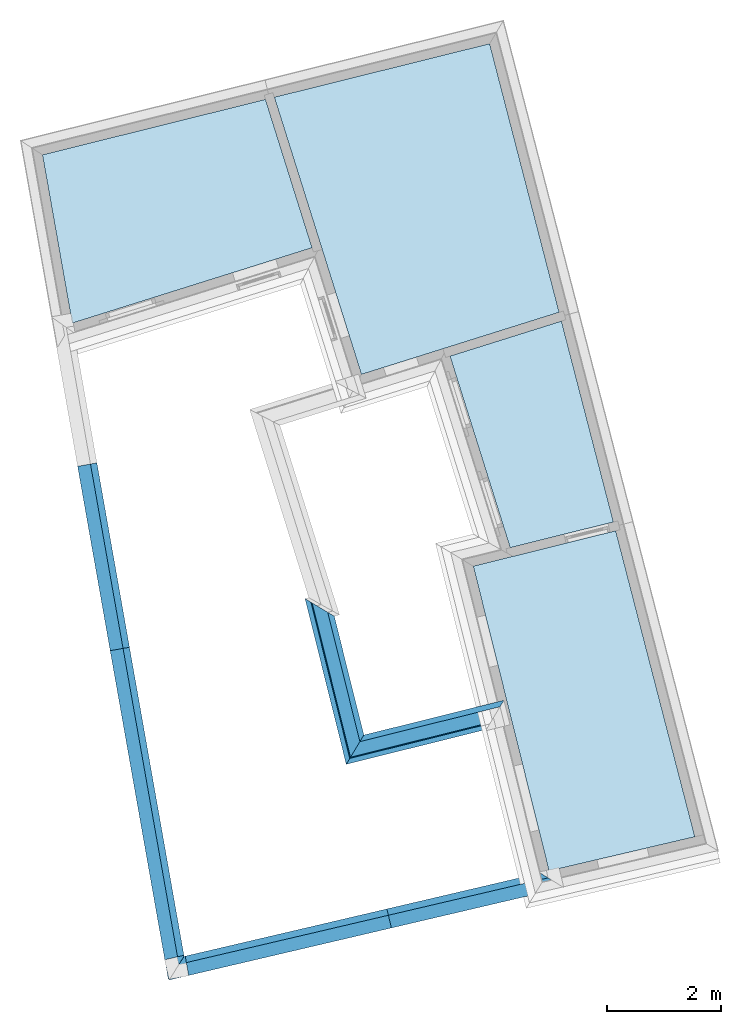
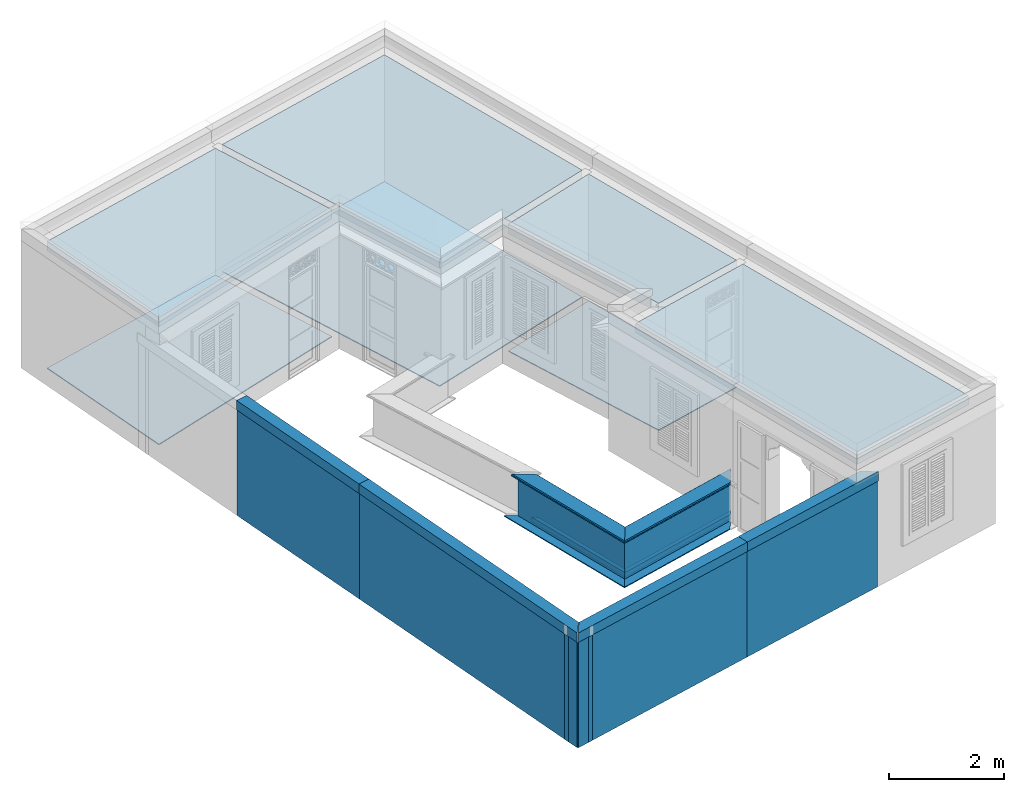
# One storey, part 1 of 13: 16 walls, 7 slabs.
"""IFC4 building model written with IfcOpenShell, lengths in metres."""

from ifc_helpers import new_model, si_unit, frame, origin_with_axes, place, context, subcontext, project, spatial, polyline, outline, extrude, clip, halfspace, material_profile, profile_set, profile_usage, type_object, element, save


model = new_model("IFC4")

# Units and contexts
model_context = context("Model", 3, world=origin_with_axes())
body_context = subcontext(model_context, "Body", "Model", "MODEL_VIEW")
ifc_project = project(units=[si_unit("PLANEANGLEUNIT", "RADIAN"), si_unit("MASSUNIT", "GRAM", prefix="KILO"), si_unit("FORCEUNIT", "NEWTON", prefix="KILO"), si_unit("LENGTHUNIT", "METRE"), si_unit("AREAUNIT", "SQUARE_METRE"), si_unit("VOLUMEUNIT", "CUBIC_METRE")], contexts=[model_context, model_context])

# Site, building, storey
site_placement = place(None, origin_with_axes())
site = spatial("IfcSite", under=ifc_project, at=site_placement, Name="Site plot-0", CompositionType="ELEMENT")
building_placement = place(None, origin_with_axes())
building = spatial("IfcBuilding", under=site, at=building_placement, Name="Building plot-0", CompositionType="ELEMENT")
storey_placement = place(None, frame((0.0, 0.0, 3.6), z_axis=(0.0, 0.0, 1.0), x_axis=(1.0, 0.0, 0.0)))
storey = spatial("IfcBuildingStorey", under=building, at=storey_placement, Name="plot-0 1", CompositionType="ELEMENT", Elevation=3.6)

# Slabs
slab_1_placement = place(storey_placement, frame((8.4025652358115, 10.3345106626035, 2.5)))
element("IfcSlab", 1, at=slab_1_placement, inside=storey, Name="My Slab", ObjectType="Slab", PredefinedType="FLOOR", context=body_context, shape_type="SweptSolid", body=[
    extrude(outline(polyline([(0.0, 0.0), (-1.96382218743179, -0.616969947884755), (-0.903554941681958, -3.99181235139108), (0.915950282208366, -3.5395687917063), (0.0, 0.0)])), origin_with_axes(), (0.0, 0.0, 1.0), 0.2),
])
slab_2_placement = place(storey_placement, frame((8.4025652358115, 10.3345106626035, 0.0)))
element("IfcSlab", 2, at=slab_2_placement, inside=storey, Name="My Slab", ObjectType="Slab", PredefinedType="FLOOR", context=body_context, shape_type="SweptSolid", body=[
    extrude(outline(polyline([(0.0, 0.0), (-1.96382218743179, -0.616969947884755), (-0.903554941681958, -3.99181235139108), (0.915950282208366, -3.5395687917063), (0.0, 0.0)])), origin_with_axes(), (0.0, 0.0, 1.0), 0.02),
])
slab_3_placement = place(storey_placement, frame((9.35860095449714, 6.64003700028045, 2.5)))
element("IfcSlab", 3, at=slab_3_placement, inside=storey, Name="My Slab", ObjectType="Slab", PredefinedType="FLOOR", context=body_context, shape_type="SweptSolid", body=[
    extrude(outline(polyline([(0.0, 0.0), (-2.5093045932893, -0.623695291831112), (-1.17466303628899, -5.99334010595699), (1.39517420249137, -5.39146628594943), (0.0, 0.0)])), origin_with_axes(), (0.0, 0.0, 1.0), 0.2),
])
slab_4_placement = place(storey_placement, frame((7.13769499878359, 15.2224344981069, 2.5)))
element("IfcSlab", 4, at=slab_4_placement, inside=storey, Name="My Slab", ObjectType="Slab", PredefinedType="FLOOR", context=body_context, shape_type="SweptSolid", body=[
    extrude(outline(polyline([(0.0, 0.0), (-3.79412183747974, -0.943040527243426), (-2.25958614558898, -5.8274846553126), (1.22473408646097, -4.73282298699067), (0.0, 0.0)])), origin_with_axes(), (0.0, 0.0, 1.0), 0.2),
])
slab_5_placement = place(storey_placement, frame((7.13769499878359, 15.2224344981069, 0.0)))
element("IfcSlab", 5, at=slab_5_placement, inside=storey, Name="My Slab", ObjectType="Slab", PredefinedType="FLOOR", context=body_context, shape_type="SweptSolid", body=[
    extrude(outline(polyline([(0.0, 0.0), (-3.79412183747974, -0.943040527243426), (-2.25958614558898, -5.8274846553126), (1.22473408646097, -4.73282298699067), (0.0, 0.0)])), origin_with_axes(), (0.0, 0.0, 1.0), 0.02),
])
slab_6_placement = place(storey_placement, frame((-0.217380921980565, 10.2984793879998, 2.5)))
element("IfcSlab", 6, at=slab_6_placement, inside=storey, Name="My Slab", ObjectType="Slab", PredefinedType="FLOOR", context=body_context, shape_type="SweptSolid", body=[
    extrude(outline(polyline([(0.0, 0.0), (4.22673445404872, 1.3279044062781), (3.4053912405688, 3.94224896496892), (-0.524045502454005, 2.96557550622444), (0.0, 0.0)])), origin_with_axes(), (0.0, 0.0, 1.0), 0.2),
])
slab_7_placement = place(storey_placement, frame((-0.217380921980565, 10.2984793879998, 0.0)))
element("IfcSlab", 7, at=slab_7_placement, inside=storey, Name="My Slab", ObjectType="Slab", PredefinedType="FLOOR", context=body_context, shape_type="SweptSolid", body=[
    extrude(outline(polyline([(0.0, 0.0), (4.22673445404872, 1.3279044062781), (3.4053912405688, 3.94224896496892), (-0.524045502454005, 2.96557550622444), (0.0, 0.0)])), origin_with_axes(), (0.0, 0.0, 1.0), 0.02),
])

# Walls
ifc_material_profile_1 = material_profile(None, outline(polyline([(0.25, 0.0), (0.25, 2.245), (0.05, 2.245), (0.05, 0.02), (-0.08, 0.02), (-0.08, 0.0), (0.25, 0.0)])))
ifc_profile_set_1 = profile_set([ifc_material_profile_1])
ifc_profile_usage_1 = profile_usage(ifc_profile_set_1)
wall_type_1 = type_object("IfcWallType", Name="parapet street_0", PredefinedType="PARAPET", material=ifc_profile_set_1)
wall_1_placement = place(storey_placement, frame((1.91825049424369, -1.92999598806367, 0.0), z_axis=(-0.228036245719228, 0.973652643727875, 0.0), x_axis=(-0.973652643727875, -0.228036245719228, 0.0)))
element("IfcWall", 8, at=wall_1_placement, inside=storey, type_object=wall_type_1, material=ifc_profile_usage_1, Name="parapet street_0", context=body_context, shape_type="Clipping", body=[
    clip(clip(extrude(outline(polyline([(0.25, 0.0), (0.25, 2.245), (0.05, 2.245), (0.05, 0.02), (-0.08, 0.02), (-0.08, 0.0), (0.25, 0.0)])), origin_with_axes(), (0.0, 0.0, 1.0), 2.1), halfspace(frame((0.0, 0.0, 1.1), z_axis=(-6.12323399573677e-17, 0.0, -1.0), x_axis=(0.0, 1.0, 0.0)), True)), halfspace(frame((0.0, 0.0, 1.0), z_axis=(-0.707106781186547, 0.0, -0.707106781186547), x_axis=(0.0, 1.0, 0.0)), False)),
])
ifc_profile_usage_2 = profile_usage(ifc_profile_set_1)
wall_2_placement = place(storey_placement, frame((6.31970204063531, 0.127915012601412, 0.0), z_axis=(-0.973652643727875, -0.228036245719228, 0.0), x_axis=(0.228036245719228, -0.973652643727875, 0.0)))
element("IfcWall", 9, at=wall_2_placement, inside=storey, type_object=wall_type_1, material=ifc_profile_usage_2, Name="parapet street_0", context=body_context, shape_type="Clipping", body=[
    clip(clip(extrude(outline(polyline([(0.25, 0.0), (0.25, 2.245), (0.05, 2.245), (0.05, 0.02), (-0.08, 0.02), (-0.08, 0.0), (0.25, 0.0)])), origin_with_axes(), (0.0, 0.0, 1.0), 5.75476323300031), halfspace(frame((0.0, 0.0, 4.75476323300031), z_axis=(0.707106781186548, 0.0, -0.707106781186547), x_axis=(0.0, 1.0, 0.0)), True)), halfspace(frame((0.0, 0.0, 1.0), z_axis=(-6.12323399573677e-17, 0.0, -1.0), x_axis=(0.0, 1.0, 0.0)), False)),
])
ifc_profile_usage_3 = profile_usage(ifc_profile_set_1)
wall_3_placement = place(storey_placement, frame((9.09899006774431, 0.778843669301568, 0.0), z_axis=(-0.973652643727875, -0.228036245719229, 0.0), x_axis=(0.228036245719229, -0.973652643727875, 0.0)))
element("IfcWall", 10, at=wall_3_placement, inside=storey, type_object=wall_type_1, material=ifc_profile_usage_3, Name="parapet street_0", context=body_context, shape_type="Clipping", body=[
    clip(clip(extrude(outline(polyline([(0.25, 0.0), (0.25, 2.245), (0.05, 2.245), (0.05, 0.02), (-0.08, 0.02), (-0.08, 0.0), (0.25, 0.0)])), origin_with_axes(), (0.0, 0.0, 1.0), 4.85449646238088), halfspace(frame((0.0, 0.0, 3.85449646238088), z_axis=(1.60812264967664e-16, 0.0, -1.0), x_axis=(0.0, 1.0, 0.0)), True)), halfspace(frame((0.0, 0.0, 1.0), z_axis=(-0.707106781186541, 0.0, -0.707106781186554), x_axis=(0.0, 1.0, 0.0)), False)),
])
ifc_material_profile_2 = material_profile(None, outline(polyline([(0.265, 2.245), (0.265, 2.445), (0.035, 2.445), (0.035, 2.245), (0.265, 2.245)])))
ifc_profile_set_2 = profile_set([ifc_material_profile_2])
ifc_profile_usage_4 = profile_usage(ifc_profile_set_2)
wall_type_2 = type_object("IfcWallType", Name="parapet street_1", PredefinedType="PARAPET", material=ifc_profile_set_2)
wall_4_placement = place(storey_placement, frame((6.31970204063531, 0.127915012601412, 0.0), z_axis=(-0.973652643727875, -0.228036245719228, 0.0), x_axis=(0.228036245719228, -0.973652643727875, 0.0)))
element("IfcWall", 11, at=wall_4_placement, inside=storey, type_object=wall_type_2, material=ifc_profile_usage_4, Name="parapet street_1", context=body_context, shape_type="Clipping", body=[
    clip(clip(extrude(outline(polyline([(0.265, 2.245), (0.265, 2.445), (0.035, 2.445), (0.035, 2.245), (0.265, 2.245)])), origin_with_axes(), (0.0, 0.0, 1.0), 5.75476323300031), halfspace(frame((0.0, 0.0, 4.75476323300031), z_axis=(0.707106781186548, 0.0, -0.707106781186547), x_axis=(0.0, 1.0, 0.0)), True)), halfspace(frame((0.0, 0.0, 1.0), z_axis=(-6.12323399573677e-17, 0.0, -1.0), x_axis=(0.0, 1.0, 0.0)), False)),
])
ifc_profile_usage_5 = profile_usage(ifc_profile_set_2)
wall_5_placement = place(storey_placement, frame((9.09899006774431, 0.778843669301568, 0.0), z_axis=(-0.973652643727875, -0.228036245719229, 0.0), x_axis=(0.228036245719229, -0.973652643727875, 0.0)))
element("IfcWall", 12, at=wall_5_placement, inside=storey, type_object=wall_type_2, material=ifc_profile_usage_5, Name="parapet street_1", context=body_context, shape_type="Clipping", body=[
    clip(clip(extrude(outline(polyline([(0.265, 2.245), (0.265, 2.445), (0.035, 2.445), (0.035, 2.245), (0.265, 2.245)])), origin_with_axes(), (0.0, 0.0, 1.0), 4.85449646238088), halfspace(frame((0.0, 0.0, 3.85449646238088), z_axis=(1.60812264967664e-16, 0.0, -1.0), x_axis=(0.0, 1.0, 0.0)), True)), halfspace(frame((0.0, 0.0, 1.0), z_axis=(-0.707106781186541, 0.0, -0.707106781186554), x_axis=(0.0, 1.0, 0.0)), False)),
])
ifc_material_profile_3 = material_profile(None, outline(polyline([(0.25, 0.0), (0.25, 2.245), (0.05, 2.245), (0.05, 0.02), (-0.08, 0.02), (-0.08, 0.0), (0.25, 0.0)])))
ifc_profile_set_3 = profile_set([ifc_material_profile_3])
ifc_profile_usage_6 = profile_usage(ifc_profile_set_3)
wall_type_3 = type_object("IfcWallType", Name="parapet party_0", PredefinedType="PARAPET", material=ifc_profile_set_3)
wall_6_placement = place(storey_placement, frame((0.887036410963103, 3.58884311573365, 0.0), z_axis=(-0.174013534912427, 0.984743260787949, 0.0), x_axis=(-0.984743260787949, -0.174013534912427, 0.0)))
element("IfcWall", 13, at=wall_6_placement, inside=storey, type_object=wall_type_3, material=ifc_profile_usage_6, Name="parapet party_0", context=body_context, shape_type="Clipping", body=[
    clip(clip(extrude(outline(polyline([(0.25, 0.0), (0.25, 2.245), (0.05, 2.245), (0.05, 0.02), (-0.08, 0.02), (-0.08, 0.0), (0.25, 0.0)])), origin_with_axes(), (0.0, 0.0, 1.0), 5.2989511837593), halfspace(frame((0.0, 0.0, 4.2989511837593), z_axis=(-1.83758917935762e-15, 0.0, -1.0), x_axis=(0.0, 1.0, 0.0)), True)), halfspace(frame((0.0, 0.0, 1.0), z_axis=(-6.12323399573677e-17, 0.0, -1.0), x_axis=(0.0, 1.0, 0.0)), False)),
])
ifc_profile_usage_7 = profile_usage(ifc_profile_set_3)
wall_7_placement = place(storey_placement, frame((1.86422778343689, -1.94108660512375, 0.0), z_axis=(-0.174013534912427, 0.984743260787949, 0.0), x_axis=(-0.984743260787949, -0.174013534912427, 0.0)))
element("IfcWall", 14, at=wall_7_placement, inside=storey, type_object=wall_type_3, material=ifc_profile_usage_7, Name="parapet party_0", context=body_context, shape_type="Clipping", body=[
    clip(clip(extrude(outline(polyline([(0.25, 0.0), (0.25, 2.245), (0.05, 2.245), (0.05, 0.02), (-0.08, 0.02), (-0.08, 0.0), (0.25, 0.0)])), origin_with_axes(), (0.0, 0.0, 1.0), 7.61560555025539), halfspace(frame((0.0, 0.0, 6.61560555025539), z_axis=(-6.12323399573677e-17, 0.0, -1.0), x_axis=(0.0, 1.0, 0.0)), True)), halfspace(frame((0.0, 0.0, 1.0), z_axis=(-0.707106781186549, 0.0, -0.707106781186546), x_axis=(0.0, 1.0, 0.0)), False)),
])
ifc_profile_usage_8 = profile_usage(ifc_profile_set_3)
wall_8_placement = place(storey_placement, frame((2.7734318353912, -0.764928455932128, 0.0), z_axis=(-0.984743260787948, -0.174013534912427, 0.0), x_axis=(0.174013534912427, -0.984743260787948, 0.0)))
element("IfcWall", 15, at=wall_8_placement, inside=storey, type_object=wall_type_3, material=ifc_profile_usage_8, Name="parapet party_0", context=body_context, shape_type="Clipping", body=[
    clip(clip(extrude(outline(polyline([(0.25, 0.0), (0.25, 2.245), (0.05, 2.245), (0.05, 0.02), (-0.08, 0.02), (-0.08, 0.0), (0.25, 0.0)])), origin_with_axes(), (0.0, 0.0, 1.0), 2.1), halfspace(frame((0.0, 0.0, 1.1), z_axis=(0.707106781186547, 0.0, -0.707106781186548), x_axis=(0.0, 1.0, 0.0)), True)), halfspace(frame((0.0, 0.0, 1.0), z_axis=(-6.12323399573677e-17, 0.0, -1.0), x_axis=(0.0, 1.0, 0.0)), False)),
])
ifc_material_profile_4 = material_profile(None, outline(polyline([(0.265, 2.245), (0.265, 2.445), (0.035, 2.445), (0.035, 2.245), (0.265, 2.245)])))
ifc_profile_set_4 = profile_set([ifc_material_profile_4])
ifc_profile_usage_9 = profile_usage(ifc_profile_set_4)
wall_type_4 = type_object("IfcWallType", Name="parapet party_1", PredefinedType="PARAPET", material=ifc_profile_set_4)
wall_9_placement = place(storey_placement, frame((0.887036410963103, 3.58884311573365, 0.0), z_axis=(-0.174013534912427, 0.984743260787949, 0.0), x_axis=(-0.984743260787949, -0.174013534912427, 0.0)))
element("IfcWall", 16, at=wall_9_placement, inside=storey, type_object=wall_type_4, material=ifc_profile_usage_9, Name="parapet party_1", context=body_context, shape_type="Clipping", body=[
    clip(clip(extrude(outline(polyline([(0.265, 2.245), (0.265, 2.445), (0.035, 2.445), (0.035, 2.245), (0.265, 2.245)])), origin_with_axes(), (0.0, 0.0, 1.0), 5.2989511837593), halfspace(frame((0.0, 0.0, 4.2989511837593), z_axis=(-1.83758917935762e-15, 0.0, -1.0), x_axis=(0.0, 1.0, 0.0)), True)), halfspace(frame((0.0, 0.0, 1.0), z_axis=(-6.12323399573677e-17, 0.0, -1.0), x_axis=(0.0, 1.0, 0.0)), False)),
])
ifc_profile_usage_10 = profile_usage(ifc_profile_set_4)
wall_10_placement = place(storey_placement, frame((1.86422778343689, -1.94108660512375, 0.0), z_axis=(-0.174013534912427, 0.984743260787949, 0.0), x_axis=(-0.984743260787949, -0.174013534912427, 0.0)))
element("IfcWall", 17, at=wall_10_placement, inside=storey, type_object=wall_type_4, material=ifc_profile_usage_10, Name="parapet party_1", context=body_context, shape_type="Clipping", body=[
    clip(clip(extrude(outline(polyline([(0.265, 2.245), (0.265, 2.445), (0.035, 2.445), (0.035, 2.245), (0.265, 2.245)])), origin_with_axes(), (0.0, 0.0, 1.0), 7.61560555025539), halfspace(frame((0.0, 0.0, 6.61560555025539), z_axis=(-6.12323399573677e-17, 0.0, -1.0), x_axis=(0.0, 1.0, 0.0)), True)), halfspace(frame((0.0, 0.0, 1.0), z_axis=(-0.707106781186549, 0.0, -0.707106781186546), x_axis=(0.0, 1.0, 0.0)), False)),
])
ifc_material_profile_5 = material_profile(None, outline(polyline([(0.25, 0.0), (0.25, 0.795), (0.09, 0.795), (0.09, 0.02), (-0.08, 0.02), (-0.08, 0.0), (0.25, 0.0)])))
ifc_profile_set_5 = profile_set([ifc_material_profile_5])
ifc_profile_usage_11 = profile_usage(ifc_profile_set_5)
wall_type_5 = type_object("IfcWallType", Name="parapet internal_0", PredefinedType="PARAPET", material=ifc_profile_set_5)
wall_11_placement = place(storey_placement, frame((3.69877874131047, 2.38161958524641, 0.0), z_axis=(0.970472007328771, 0.241213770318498, 0.0), x_axis=(-0.241213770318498, 0.970472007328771, 0.0)))
element("IfcWall", 18, at=wall_11_placement, inside=storey, type_object=wall_type_5, material=ifc_profile_usage_11, Name="parapet internal_0", context=body_context, shape_type="Clipping", body=[
    clip(clip(extrude(outline(polyline([(0.25, 0.0), (0.25, 0.795), (0.09, 0.795), (0.09, 0.02), (-0.08, 0.02), (-0.08, 0.0), (0.25, 0.0)])), origin_with_axes(), (0.0, 0.0, 1.0), 4.54423418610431), halfspace(frame((0.0, 0.0, 3.54423418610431), z_axis=(0.707106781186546, 0.0, -0.707106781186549), x_axis=(0.0, 1.0, 0.0)), True)), halfspace(frame((0.0, 0.0, 1.0), z_axis=(0.707106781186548, 0.0, -0.707106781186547), x_axis=(0.0, 1.0, 0.0)), False)),
])
ifc_profile_usage_12 = profile_usage(ifc_profile_set_5)
wall_12_placement = place(storey_placement, frame((3.74119334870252, 6.35667378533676, 0.0), z_axis=(0.241213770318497, -0.970472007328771, 0.0), x_axis=(0.970472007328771, 0.241213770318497, 0.0)))
element("IfcWall", 19, at=wall_12_placement, inside=storey, type_object=wall_type_5, material=ifc_profile_usage_12, Name="parapet internal_0", context=body_context, shape_type="Clipping", body=[
    clip(clip(extrude(outline(polyline([(0.25, 0.0), (0.25, 0.795), (0.09, 0.795), (0.09, 0.02), (-0.08, 0.02), (-0.08, 0.0), (0.25, 0.0)])), origin_with_axes(), (0.0, 0.0, 1.0), 4.84744784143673), halfspace(frame((0.0, 0.0, 3.84744784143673), z_axis=(-0.707106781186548, 0.0, -0.707106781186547), x_axis=(0.0, 1.0, 0.0)), True)), halfspace(frame((0.0, 0.0, 1.0), z_axis=(0.707106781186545, 0.0, -0.70710678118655), x_axis=(0.0, 1.0, 0.0)), False)),
])
ifc_material_profile_6 = material_profile(None, outline(polyline([(0.265, 0.795), (0.268, 0.807), (0.274, 0.816), (0.283, 0.822), (0.295, 0.825), (0.295, 0.84), (0.305, 0.84), (0.317, 0.842), (0.326, 0.849), (0.333, 0.858), (0.335, 0.87), (0.333, 0.882), (0.326, 0.891), (0.317, 0.898), (0.305, 0.9), (0.035, 0.9), (0.023, 0.898), (0.014, 0.891), (0.007, 0.882), (0.005, 0.87), (0.007, 0.858), (0.014, 0.849), (0.023, 0.842), (0.035, 0.84), (0.045, 0.84), (0.045, 0.825), (0.057, 0.822), (0.066, 0.816), (0.072, 0.807), (0.075, 0.795), (0.265, 0.795)])))
ifc_profile_set_6 = profile_set([ifc_material_profile_6])
ifc_profile_usage_13 = profile_usage(ifc_profile_set_6)
wall_type_6 = type_object("IfcWallType", Name="parapet internal_1", PredefinedType="PARAPET", material=ifc_profile_set_6)
wall_13_placement = place(storey_placement, frame((3.69877874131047, 2.38161958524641, 0.0), z_axis=(0.970472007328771, 0.241213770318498, 0.0), x_axis=(-0.241213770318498, 0.970472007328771, 0.0)))
element("IfcWall", 20, at=wall_13_placement, inside=storey, type_object=wall_type_6, material=ifc_profile_usage_13, Name="parapet internal_1", context=body_context, shape_type="Clipping", body=[
    clip(clip(extrude(outline(polyline([(0.265, 0.795), (0.268, 0.807), (0.274, 0.816), (0.283, 0.822), (0.295, 0.825), (0.295, 0.84), (0.305, 0.84), (0.317, 0.842), (0.326, 0.849), (0.333, 0.858), (0.335, 0.87), (0.333, 0.882), (0.326, 0.891), (0.317, 0.898), (0.305, 0.9), (0.035, 0.9), (0.023, 0.898), (0.014, 0.891), (0.007, 0.882), (0.005, 0.87), (0.007, 0.858), (0.014, 0.849), (0.023, 0.842), (0.035, 0.84), (0.045, 0.84), (0.045, 0.825), (0.057, 0.822), (0.066, 0.816), (0.072, 0.807), (0.075, 0.795), (0.265, 0.795)])), origin_with_axes(), (0.0, 0.0, 1.0), 4.54423418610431), halfspace(frame((0.0, 0.0, 3.54423418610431), z_axis=(0.707106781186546, 0.0, -0.707106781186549), x_axis=(0.0, 1.0, 0.0)), True)), halfspace(frame((0.0, 0.0, 1.0), z_axis=(0.707106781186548, 0.0, -0.707106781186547), x_axis=(0.0, 1.0, 0.0)), False)),
])
ifc_profile_usage_14 = profile_usage(ifc_profile_set_6)
wall_14_placement = place(storey_placement, frame((3.74119334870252, 6.35667378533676, 0.0), z_axis=(0.241213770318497, -0.970472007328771, 0.0), x_axis=(0.970472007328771, 0.241213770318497, 0.0)))
element("IfcWall", 21, at=wall_14_placement, inside=storey, type_object=wall_type_6, material=ifc_profile_usage_14, Name="parapet internal_1", context=body_context, shape_type="Clipping", body=[
    clip(clip(extrude(outline(polyline([(0.265, 0.795), (0.268, 0.807), (0.274, 0.816), (0.283, 0.822), (0.295, 0.825), (0.295, 0.84), (0.305, 0.84), (0.317, 0.842), (0.326, 0.849), (0.333, 0.858), (0.335, 0.87), (0.333, 0.882), (0.326, 0.891), (0.317, 0.898), (0.305, 0.9), (0.035, 0.9), (0.023, 0.898), (0.014, 0.891), (0.007, 0.882), (0.005, 0.87), (0.007, 0.858), (0.014, 0.849), (0.023, 0.842), (0.035, 0.84), (0.045, 0.84), (0.045, 0.825), (0.057, 0.822), (0.066, 0.816), (0.072, 0.807), (0.075, 0.795), (0.265, 0.795)])), origin_with_axes(), (0.0, 0.0, 1.0), 4.84744784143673), halfspace(frame((0.0, 0.0, 3.84744784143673), z_axis=(-0.707106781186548, 0.0, -0.707106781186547), x_axis=(0.0, 1.0, 0.0)), True)), halfspace(frame((0.0, 0.0, 1.0), z_axis=(0.707106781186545, 0.0, -0.70710678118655), x_axis=(0.0, 1.0, 0.0)), False)),
])
ifc_material_profile_7 = material_profile(None, outline(polyline([(0.25, -0.1), (0.265, -0.1), (0.265, -0.085), (0.278, -0.084), (0.289, -0.081), (0.301, -0.074), (0.309, -0.065), (0.315, -0.055), (0.324, -0.044), (0.334, -0.038), (0.345, -0.035), (0.345, -0.015), (0.25, 0.0), (0.25, -0.1)])))
ifc_profile_set_7 = profile_set([ifc_material_profile_7])
ifc_profile_usage_15 = profile_usage(ifc_profile_set_7)
wall_type_7 = type_object("IfcWallType", Name="parapet internal_2", PredefinedType="PARAPET", material=ifc_profile_set_7)
wall_15_placement = place(storey_placement, frame((3.69877874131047, 2.38161958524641, 0.0), z_axis=(0.970472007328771, 0.241213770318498, 0.0), x_axis=(-0.241213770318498, 0.970472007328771, 0.0)))
element("IfcWall", 22, at=wall_15_placement, inside=storey, type_object=wall_type_7, material=ifc_profile_usage_15, Name="parapet internal_2", context=body_context, shape_type="Clipping", body=[
    clip(clip(extrude(outline(polyline([(0.25, -0.1), (0.265, -0.1), (0.265, -0.085), (0.278, -0.084), (0.289, -0.081), (0.301, -0.074), (0.309, -0.065), (0.315, -0.055), (0.324, -0.044), (0.334, -0.038), (0.345, -0.035), (0.345, -0.015), (0.25, 0.0), (0.25, -0.1)])), origin_with_axes(), (0.0, 0.0, 1.0), 4.54423418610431), halfspace(frame((0.0, 0.0, 3.54423418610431), z_axis=(0.707106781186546, 0.0, -0.707106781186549), x_axis=(0.0, 1.0, 0.0)), True)), halfspace(frame((0.0, 0.0, 1.0), z_axis=(0.707106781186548, 0.0, -0.707106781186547), x_axis=(0.0, 1.0, 0.0)), False)),
])
ifc_profile_usage_16 = profile_usage(ifc_profile_set_7)
wall_16_placement = place(storey_placement, frame((3.74119334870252, 6.35667378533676, 0.0), z_axis=(0.241213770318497, -0.970472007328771, 0.0), x_axis=(0.970472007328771, 0.241213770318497, 0.0)))
element("IfcWall", 23, at=wall_16_placement, inside=storey, type_object=wall_type_7, material=ifc_profile_usage_16, Name="parapet internal_2", context=body_context, shape_type="Clipping", body=[
    clip(clip(extrude(outline(polyline([(0.25, -0.1), (0.265, -0.1), (0.265, -0.085), (0.278, -0.084), (0.289, -0.081), (0.301, -0.074), (0.309, -0.065), (0.315, -0.055), (0.324, -0.044), (0.334, -0.038), (0.345, -0.035), (0.345, -0.015), (0.25, 0.0), (0.25, -0.1)])), origin_with_axes(), (0.0, 0.0, 1.0), 4.84744784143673), halfspace(frame((0.0, 0.0, 3.84744784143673), z_axis=(-0.707106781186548, 0.0, -0.707106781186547), x_axis=(0.0, 1.0, 0.0)), True)), halfspace(frame((0.0, 0.0, 1.0), z_axis=(0.707106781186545, 0.0, -0.70710678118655), x_axis=(0.0, 1.0, 0.0)), False)),
])

save(model, "model.ifc")
